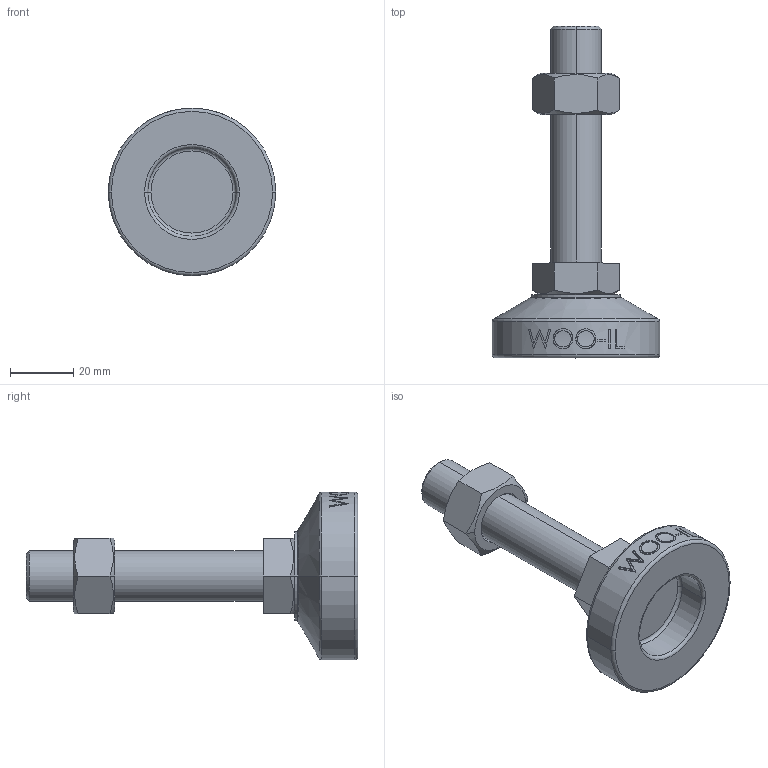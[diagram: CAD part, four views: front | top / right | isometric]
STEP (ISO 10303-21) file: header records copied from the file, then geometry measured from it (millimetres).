
FILE_DESCRIPTION (( 'STEP AP214' ), '1' );
FILE_NAME ('MFZ53-M16-75.step', '2021-01-15T07:05:09', ( '' ), ( '' ), 'SwSTEP 2.0', 'SolidWorks 2019', '' );
FILE_SCHEMA (( 'AUTOMOTIVE_DESIGN' ));
Length unit declared in the file: millimetre
Products named in the file (2): MFZ53-M16-75
Bounding box: 53 x 105 x 53 mm (x, y, z)
Volume: 53855.2 mm3; surface area: 15257.8 mm2
Topology: 3 solids, 3 shells, 106 faces, 243 edges, 154 vertices
Faces by surface type: plane 48, cylinder 18, bspline 16, cone 14, torus 10
Entity records: 4508 total; most frequent: CARTESIAN_POINT 2165, ORIENTED_EDGE 486, DIRECTION 439, EDGE_CURVE 243, AXIS2_PLACEMENT_3D 170, VERTEX_POINT 154, EDGE_LOOP 119, ADVANCED_FACE 106
